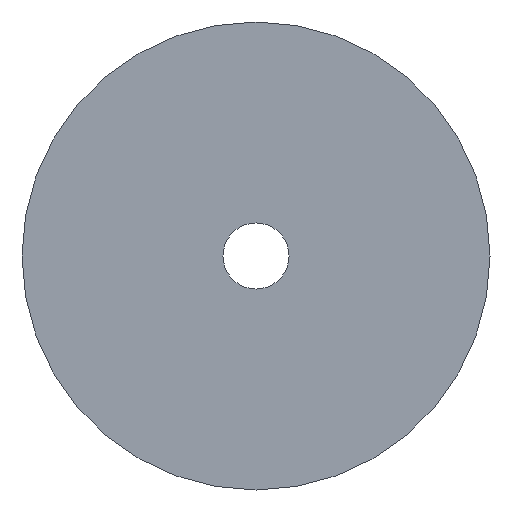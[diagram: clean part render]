
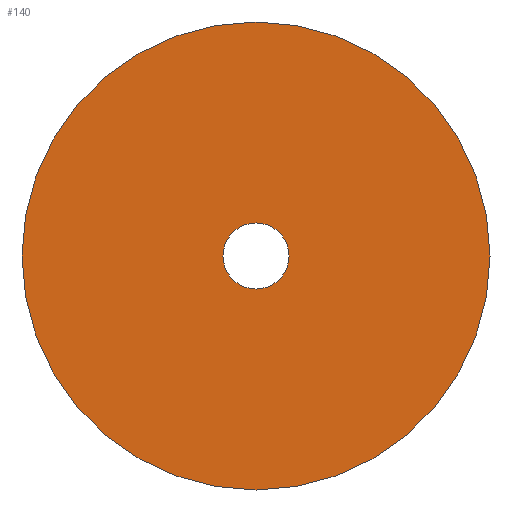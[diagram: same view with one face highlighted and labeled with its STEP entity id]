
A CAD part, front view. The second image highlights one B-rep face of the part: STEP entity #140.
In plain terms, the highlighted planar face has unit normal (0, -1, 0).
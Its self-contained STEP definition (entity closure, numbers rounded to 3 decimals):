
#31 = CYLINDRICAL_SURFACE('',#32,8.5);
#32 = AXIS2_PLACEMENT_3D('',#33,#34,#35);
#33 = CARTESIAN_POINT('',(31.,-29.,43.));
#34 = DIRECTION('',(0.,1.,0.));
#35 = DIRECTION('',(0.,-0.,1.));
#56 = VERTEX_POINT('',#57);
#57 = CARTESIAN_POINT('',(31.,-29.,51.5));
#78 = EDGE_CURVE('',#56,#56,#79,.T.);
#79 = SURFACE_CURVE('',#80,(#85,#92),.PCURVE_S1.);
#80 = CIRCLE('',#81,8.5);
#81 = AXIS2_PLACEMENT_3D('',#82,#83,#84);
#82 = CARTESIAN_POINT('',(31.,-29.,43.));
#83 = DIRECTION('',(0.,1.,0.));
#84 = DIRECTION('',(0.,-0.,1.));
#85 = PCURVE('',#31,#86);
#86 = DEFINITIONAL_REPRESENTATION('',(#87),#91);
#87 = LINE('',#88,#89);
#88 = CARTESIAN_POINT('',(0.,0.));
#89 = VECTOR('',#90,1.);
#90 = DIRECTION('',(1.,0.));
#91 = ( GEOMETRIC_REPRESENTATION_CONTEXT(2) 
PARAMETRIC_REPRESENTATION_CONTEXT() REPRESENTATION_CONTEXT('2D SPACE',''
  ) );
#92 = PCURVE('',#93,#98);
#93 = PLANE('',#94);
#94 = AXIS2_PLACEMENT_3D('',#95,#96,#97);
#95 = CARTESIAN_POINT('',(31.,-29.,43.));
#96 = DIRECTION('',(0.,1.,0.));
#97 = DIRECTION('',(0.,-0.,1.));
#98 = DEFINITIONAL_REPRESENTATION('',(#99),#103);
#99 = CIRCLE('',#100,8.5);
#100 = AXIS2_PLACEMENT_2D('',#101,#102);
#101 = CARTESIAN_POINT('',(0.,0.));
#102 = DIRECTION('',(1.,0.));
#103 = ( GEOMETRIC_REPRESENTATION_CONTEXT(2) 
PARAMETRIC_REPRESENTATION_CONTEXT() REPRESENTATION_CONTEXT('2D SPACE',''
  ) );
#129 = CYLINDRICAL_SURFACE('',#130,1.2);
#130 = AXIS2_PLACEMENT_3D('',#131,#132,#133);
#131 = CARTESIAN_POINT('',(31.,-30.,43.));
#132 = DIRECTION('',(0.,1.,0.));
#133 = DIRECTION('',(0.,-0.,1.));
#140 = ADVANCED_FACE('',(#141,#144),#93,.F.);
#141 = FACE_BOUND('',#142,.F.);
#142 = EDGE_LOOP('',(#143));
#143 = ORIENTED_EDGE('',*,*,#78,.T.);
#144 = FACE_BOUND('',#145,.F.);
#145 = EDGE_LOOP('',(#146));
#146 = ORIENTED_EDGE('',*,*,#147,.F.);
#147 = EDGE_CURVE('',#148,#148,#150,.T.);
#148 = VERTEX_POINT('',#149);
#149 = CARTESIAN_POINT('',(31.,-29.,44.2));
#150 = SURFACE_CURVE('',#151,(#156,#163),.PCURVE_S1.);
#151 = CIRCLE('',#152,1.2);
#152 = AXIS2_PLACEMENT_3D('',#153,#154,#155);
#153 = CARTESIAN_POINT('',(31.,-29.,43.));
#154 = DIRECTION('',(0.,1.,0.));
#155 = DIRECTION('',(0.,-0.,1.));
#156 = PCURVE('',#93,#157);
#157 = DEFINITIONAL_REPRESENTATION('',(#158),#162);
#158 = CIRCLE('',#159,1.2);
#159 = AXIS2_PLACEMENT_2D('',#160,#161);
#160 = CARTESIAN_POINT('',(0.,0.));
#161 = DIRECTION('',(1.,0.));
#162 = ( GEOMETRIC_REPRESENTATION_CONTEXT(2) 
PARAMETRIC_REPRESENTATION_CONTEXT() REPRESENTATION_CONTEXT('2D SPACE',''
  ) );
#163 = PCURVE('',#129,#164);
#164 = DEFINITIONAL_REPRESENTATION('',(#165),#169);
#165 = LINE('',#166,#167);
#166 = CARTESIAN_POINT('',(0.,1.));
#167 = VECTOR('',#168,1.);
#168 = DIRECTION('',(1.,0.));
#169 = ( GEOMETRIC_REPRESENTATION_CONTEXT(2) 
PARAMETRIC_REPRESENTATION_CONTEXT() REPRESENTATION_CONTEXT('2D SPACE',''
  ) );
